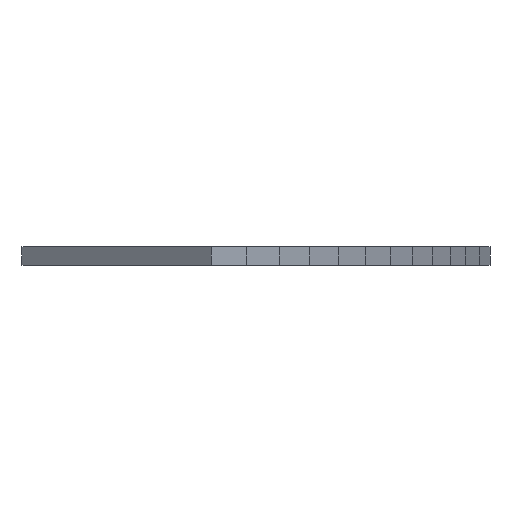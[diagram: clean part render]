
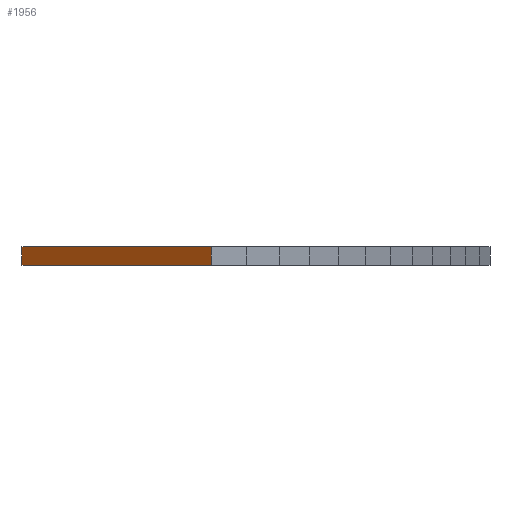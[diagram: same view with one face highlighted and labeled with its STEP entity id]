
A CAD part, left-side view. The second image highlights one B-rep face of the part: STEP entity #1956.
In plain terms, the highlighted planar face has unit normal (-0.766, 0.643, 0).
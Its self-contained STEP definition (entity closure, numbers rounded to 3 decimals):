
#21 = EDGE_CURVE('',#22,#24,#26,.T.);
#22 = VERTEX_POINT('',#23);
#23 = CARTESIAN_POINT('',(-584.347,48.52,242.3));
#24 = VERTEX_POINT('',#25);
#25 = CARTESIAN_POINT('',(-584.347,48.52,244.3));
#26 = SURFACE_CURVE('',#27,(#31,#43),.PCURVE_S1.);
#27 = LINE('',#28,#29);
#28 = CARTESIAN_POINT('',(-584.347,48.52,242.3));
#29 = VECTOR('',#30,1.);
#30 = DIRECTION('',(0.,0.,1.));
#31 = PCURVE('',#32,#37);
#32 = PLANE('',#33);
#33 = AXIS2_PLACEMENT_3D('',#34,#35,#36);
#34 = CARTESIAN_POINT('',(-584.347,48.52,242.3));
#35 = DIRECTION('',(0.626,0.78,-0.));
#36 = DIRECTION('',(0.78,-0.626,0.));
#37 = DEFINITIONAL_REPRESENTATION('',(#38),#42);
#38 = LINE('',#39,#40);
#39 = CARTESIAN_POINT('',(0.,0.));
#40 = VECTOR('',#41,1.);
#41 = DIRECTION('',(0.,-1.));
#42 = ( GEOMETRIC_REPRESENTATION_CONTEXT(2) 
PARAMETRIC_REPRESENTATION_CONTEXT() REPRESENTATION_CONTEXT('2D SPACE',''
  ) );
#43 = PCURVE('',#44,#49);
#44 = PLANE('',#45);
#45 = AXIS2_PLACEMENT_3D('',#46,#47,#48);
#46 = CARTESIAN_POINT('',(-566.992,69.203,242.3));
#47 = DIRECTION('',(0.766,-0.643,0.));
#48 = DIRECTION('',(-0.643,-0.766,0.));
#49 = DEFINITIONAL_REPRESENTATION('',(#50),#54);
#50 = LINE('',#51,#52);
#51 = CARTESIAN_POINT('',(27.,0.));
#52 = VECTOR('',#53,1.);
#53 = DIRECTION('',(0.,-1.));
#54 = ( GEOMETRIC_REPRESENTATION_CONTEXT(2) 
PARAMETRIC_REPRESENTATION_CONTEXT() REPRESENTATION_CONTEXT('2D SPACE',''
  ) );
#72 = PLANE('',#73);
#73 = AXIS2_PLACEMENT_3D('',#74,#75,#76);
#74 = CARTESIAN_POINT('',(-547.508,42.395,244.3));
#75 = DIRECTION('',(0.,0.,1.));
#76 = DIRECTION('',(1.,0.,-0.));
#126 = PLANE('',#127);
#127 = AXIS2_PLACEMENT_3D('',#128,#129,#130);
#128 = CARTESIAN_POINT('',(-547.508,42.395,242.3));
#129 = DIRECTION('',(0.,0.,1.));
#130 = DIRECTION('',(1.,0.,-0.));
#1853 = PLANE('',#1854);
#1854 = AXIS2_PLACEMENT_3D('',#1855,#1856,#1857);
#1855 = CARTESIAN_POINT('',(-563.181,66.144,242.3));
#1856 = DIRECTION('',(-0.626,-0.78,0.));
#1857 = DIRECTION('',(-0.78,0.626,0.));
#1891 = VERTEX_POINT('',#1892);
#1892 = CARTESIAN_POINT('',(-566.992,69.203,244.3));
#1913 = EDGE_CURVE('',#1914,#1891,#1916,.T.);
#1914 = VERTEX_POINT('',#1915);
#1915 = CARTESIAN_POINT('',(-566.992,69.203,242.3));
#1916 = SURFACE_CURVE('',#1917,(#1921,#1928),.PCURVE_S1.);
#1917 = LINE('',#1918,#1919);
#1918 = CARTESIAN_POINT('',(-566.992,69.203,242.3));
#1919 = VECTOR('',#1920,1.);
#1920 = DIRECTION('',(0.,0.,1.));
#1921 = PCURVE('',#1853,#1922);
#1922 = DEFINITIONAL_REPRESENTATION('',(#1923),#1927);
#1923 = LINE('',#1924,#1925);
#1924 = CARTESIAN_POINT('',(4.887,0.));
#1925 = VECTOR('',#1926,1.);
#1926 = DIRECTION('',(0.,-1.));
#1927 = ( GEOMETRIC_REPRESENTATION_CONTEXT(2) 
PARAMETRIC_REPRESENTATION_CONTEXT() REPRESENTATION_CONTEXT('2D SPACE',''
  ) );
#1928 = PCURVE('',#44,#1929);
#1929 = DEFINITIONAL_REPRESENTATION('',(#1930),#1934);
#1930 = LINE('',#1931,#1932);
#1931 = CARTESIAN_POINT('',(0.,0.));
#1932 = VECTOR('',#1933,1.);
#1933 = DIRECTION('',(0.,-1.));
#1934 = ( GEOMETRIC_REPRESENTATION_CONTEXT(2) 
PARAMETRIC_REPRESENTATION_CONTEXT() REPRESENTATION_CONTEXT('2D SPACE',''
  ) );
#1956 = ADVANCED_FACE('',(#1957),#44,.F.);
#1957 = FACE_BOUND('',#1958,.F.);
#1958 = EDGE_LOOP('',(#1959,#1960,#1981,#1982));
#1959 = ORIENTED_EDGE('',*,*,#1913,.T.);
#1960 = ORIENTED_EDGE('',*,*,#1961,.T.);
#1961 = EDGE_CURVE('',#1891,#24,#1962,.T.);
#1962 = SURFACE_CURVE('',#1963,(#1967,#1974),.PCURVE_S1.);
#1963 = LINE('',#1964,#1965);
#1964 = CARTESIAN_POINT('',(-566.992,69.203,244.3));
#1965 = VECTOR('',#1966,1.);
#1966 = DIRECTION('',(-0.643,-0.766,0.));
#1967 = PCURVE('',#44,#1968);
#1968 = DEFINITIONAL_REPRESENTATION('',(#1969),#1973);
#1969 = LINE('',#1970,#1971);
#1970 = CARTESIAN_POINT('',(0.,-2.));
#1971 = VECTOR('',#1972,1.);
#1972 = DIRECTION('',(1.,0.));
#1973 = ( GEOMETRIC_REPRESENTATION_CONTEXT(2) 
PARAMETRIC_REPRESENTATION_CONTEXT() REPRESENTATION_CONTEXT('2D SPACE',''
  ) );
#1974 = PCURVE('',#72,#1975);
#1975 = DEFINITIONAL_REPRESENTATION('',(#1976),#1980);
#1976 = LINE('',#1977,#1978);
#1977 = CARTESIAN_POINT('',(-19.484,26.808));
#1978 = VECTOR('',#1979,1.);
#1979 = DIRECTION('',(-0.643,-0.766));
#1980 = ( GEOMETRIC_REPRESENTATION_CONTEXT(2) 
PARAMETRIC_REPRESENTATION_CONTEXT() REPRESENTATION_CONTEXT('2D SPACE',''
  ) );
#1981 = ORIENTED_EDGE('',*,*,#21,.F.);
#1982 = ORIENTED_EDGE('',*,*,#1983,.F.);
#1983 = EDGE_CURVE('',#1914,#22,#1984,.T.);
#1984 = SURFACE_CURVE('',#1985,(#1989,#1996),.PCURVE_S1.);
#1985 = LINE('',#1986,#1987);
#1986 = CARTESIAN_POINT('',(-566.992,69.203,242.3));
#1987 = VECTOR('',#1988,1.);
#1988 = DIRECTION('',(-0.643,-0.766,0.));
#1989 = PCURVE('',#44,#1990);
#1990 = DEFINITIONAL_REPRESENTATION('',(#1991),#1995);
#1991 = LINE('',#1992,#1993);
#1992 = CARTESIAN_POINT('',(0.,0.));
#1993 = VECTOR('',#1994,1.);
#1994 = DIRECTION('',(1.,0.));
#1995 = ( GEOMETRIC_REPRESENTATION_CONTEXT(2) 
PARAMETRIC_REPRESENTATION_CONTEXT() REPRESENTATION_CONTEXT('2D SPACE',''
  ) );
#1996 = PCURVE('',#126,#1997);
#1997 = DEFINITIONAL_REPRESENTATION('',(#1998),#2002);
#1998 = LINE('',#1999,#2000);
#1999 = CARTESIAN_POINT('',(-19.484,26.808));
#2000 = VECTOR('',#2001,1.);
#2001 = DIRECTION('',(-0.643,-0.766));
#2002 = ( GEOMETRIC_REPRESENTATION_CONTEXT(2) 
PARAMETRIC_REPRESENTATION_CONTEXT() REPRESENTATION_CONTEXT('2D SPACE',''
  ) );
